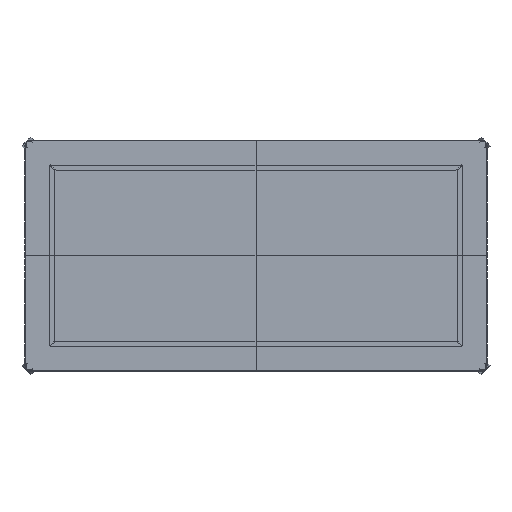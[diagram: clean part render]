
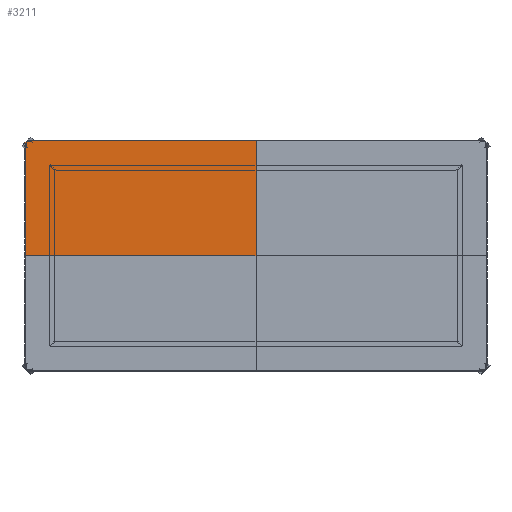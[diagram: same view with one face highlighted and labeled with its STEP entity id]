
A CAD part, top view. The second image highlights one B-rep face of the part: STEP entity #3211.
In plain terms, the highlighted free-form (B-spline) face has degree [1, 1] with [2, 2] control points.
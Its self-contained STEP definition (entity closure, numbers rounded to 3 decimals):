
#91=B_SPLINE_SURFACE_WITH_KNOTS($,1,1,((#36538,#36539),(#36540,#36541)),
.UNSPECIFIED.,.F.,.F.,.F.,(2,2),(2,2),(-749.111,190.189),
(-260.539,209.111),.UNSPECIFIED.);
#3211=ADVANCED_FACE($,(#4375),#91,.T.);
#4375=FACE_OUTER_BOUND($,#5545,.T.);
#5545=EDGE_LOOP($,(#7565,#7566,#7567,#7568,#7569,#7570,#7571,#7572,#7573,
#7574,#7575));
#7565=ORIENTED_EDGE($,*,*,#13369,.T.);
#7566=ORIENTED_EDGE($,*,*,#13370,.T.);
#7567=ORIENTED_EDGE($,*,*,#13371,.T.);
#7568=ORIENTED_EDGE($,*,*,#13372,.T.);
#7569=ORIENTED_EDGE($,*,*,#13373,.T.);
#7570=ORIENTED_EDGE($,*,*,#13374,.T.);
#7571=ORIENTED_EDGE($,*,*,#13375,.T.);
#7572=ORIENTED_EDGE($,*,*,#13376,.T.);
#7573=ORIENTED_EDGE($,*,*,#13377,.T.);
#7574=ORIENTED_EDGE($,*,*,#13378,.T.);
#7575=ORIENTED_EDGE($,*,*,#13379,.T.);
#13369=EDGE_CURVE($,#19173,#19174,#25337,.T.);
#13370=EDGE_CURVE($,#19174,#19175,#25338,.T.);
#13371=EDGE_CURVE($,#19175,#19176,#25339,.T.);
#13372=EDGE_CURVE($,#19176,#19177,#29384,.T.);
#13373=EDGE_CURVE($,#19177,#19178,#25340,.T.);
#13374=EDGE_CURVE($,#19178,#19179,#29385,.T.);
#13375=EDGE_CURVE($,#19179,#19180,#25341,.T.);
#13376=EDGE_CURVE($,#19180,#19181,#25342,.T.);
#13377=EDGE_CURVE($,#19181,#19182,#25343,.T.);
#13378=EDGE_CURVE($,#19182,#19183,#25344,.T.);
#13379=EDGE_CURVE($,#19183,#19173,#25345,.T.);
#19173=VERTEX_POINT($,#36542);
#19174=VERTEX_POINT($,#36543);
#19175=VERTEX_POINT($,#36544);
#19176=VERTEX_POINT($,#36545);
#19177=VERTEX_POINT($,#36546);
#19178=VERTEX_POINT($,#36547);
#19179=VERTEX_POINT($,#36548);
#19180=VERTEX_POINT($,#36549);
#19181=VERTEX_POINT($,#36550);
#19182=VERTEX_POINT($,#36551);
#19183=VERTEX_POINT($,#36552);
#25337=B_SPLINE_CURVE_WITH_KNOTS($,1,(#36510,#36511),.UNSPECIFIED.,.F.,.F.,
(2,2),(-0.929,0.),.UNSPECIFIED.);
#25338=B_SPLINE_CURVE_WITH_KNOTS($,1,(#36512,#36513),.UNSPECIFIED.,.F.,.F.,
(2,2),(-1.,0.),.UNSPECIFIED.);
#25339=B_SPLINE_CURVE_WITH_KNOTS($,1,(#36514,#36515),.UNSPECIFIED.,.F.,.F.,
(2,2),(0.,1.),.UNSPECIFIED.);
#25340=B_SPLINE_CURVE_WITH_KNOTS($,1,(#36523,#36524),.UNSPECIFIED.,.F.,.F.,
(2,2),(0.,1.),.UNSPECIFIED.);
#25341=B_SPLINE_CURVE_WITH_KNOTS($,1,(#36528,#36529),.UNSPECIFIED.,.F.,.F.,
(2,2),(0.,1.),.UNSPECIFIED.);
#25342=B_SPLINE_CURVE_WITH_KNOTS($,1,(#36530,#36531),.UNSPECIFIED.,.F.,.F.,
(2,2),(-1.,0.),.UNSPECIFIED.);
#25343=B_SPLINE_CURVE_WITH_KNOTS($,1,(#36532,#36533),.UNSPECIFIED.,.F.,.F.,
(2,2),(-1.,-0.543),.UNSPECIFIED.);
#25344=B_SPLINE_CURVE_WITH_KNOTS($,1,(#36534,#36535),.UNSPECIFIED.,.F.,.F.,
(2,2),(2.118,930.),.UNSPECIFIED.);
#25345=B_SPLINE_CURVE_WITH_KNOTS($,1,(#36536,#36537),.UNSPECIFIED.,.F.,.F.,
(2,2),(-1395.,-932.118),.UNSPECIFIED.);
#29384=(
BOUNDED_CURVE()
B_SPLINE_CURVE(2,(#36516,#36517,#36518,#36519,#36520,#36521,#36522),.UNSPECIFIED.,
.F.,.F.)
B_SPLINE_CURVE_WITH_KNOTS((3,2,2,3),(0.,0.004,0.015,
0.795),.UNSPECIFIED.)
CURVE()
GEOMETRIC_REPRESENTATION_ITEM()
RATIONAL_B_SPLINE_CURVE((1.,1.,1.,1.,1.,0.925,
1.))
REPRESENTATION_ITEM($)
);
#29385=(
BOUNDED_CURVE()
B_SPLINE_CURVE(2,(#36525,#36526,#36527),.UNSPECIFIED.,.F.,.F.)
B_SPLINE_CURVE_WITH_KNOTS((3,3),(0.,0.795),.UNSPECIFIED.)
CURVE()
GEOMETRIC_REPRESENTATION_ITEM()
RATIONAL_B_SPLINE_CURVE((1.,0.922,1.))
REPRESENTATION_ITEM($)
);
#36510=CARTESIAN_POINT($,(-749.111,40.79,718.874));
#36511=CARTESIAN_POINT($,(-1663.791,40.79,718.874));
#36512=CARTESIAN_POINT($,(-1663.791,40.79,718.874));
#36513=CARTESIAN_POINT($,(-1665.291,40.79,718.874));
#36514=CARTESIAN_POINT($,(-1665.291,40.79,718.874));
#36515=CARTESIAN_POINT($,(-1666.062,42.908,718.874));
#36516=CARTESIAN_POINT($,(-1666.062,42.908,718.874));
#36517=CARTESIAN_POINT($,(-1666.067,42.908,718.874));
#36518=CARTESIAN_POINT($,(-1666.073,42.908,718.874));
#36519=CARTESIAN_POINT($,(-1666.091,42.908,718.874));
#36520=CARTESIAN_POINT($,(-1666.108,42.908,718.874));
#36521=CARTESIAN_POINT($,(-1667.34,42.901,718.874));
#36522=CARTESIAN_POINT($,(-1668.212,42.03,718.874));
#36523=CARTESIAN_POINT($,(-1668.212,42.03,718.874));
#36524=CARTESIAN_POINT($,(-1678.232,32.009,718.874));
#36525=CARTESIAN_POINT($,(-1678.232,32.009,718.874));
#36526=CARTESIAN_POINT($,(-1679.123,31.118,718.874));
#36527=CARTESIAN_POINT($,(-1679.111,29.859,718.874));
#36528=CARTESIAN_POINT($,(-1679.111,29.859,718.874));
#36529=CARTESIAN_POINT($,(-1676.993,29.088,718.874));
#36530=CARTESIAN_POINT($,(-1676.993,29.088,718.874));
#36531=CARTESIAN_POINT($,(-1676.993,27.588,718.874));
#36532=CARTESIAN_POINT($,(-1676.993,27.588,718.874));
#36533=CARTESIAN_POINT($,(-1676.993,-422.092,718.874));
#36534=CARTESIAN_POINT($,(-1676.993,-422.092,718.874));
#36535=CARTESIAN_POINT($,(-749.111,-422.092,718.874));
#36536=CARTESIAN_POINT($,(-749.111,-422.092,718.874));
#36537=CARTESIAN_POINT($,(-749.111,40.79,718.874));
#36538=CARTESIAN_POINT($,(-749.111,47.558,718.874));
#36539=CARTESIAN_POINT($,(-749.111,-422.092,718.874));
#36540=CARTESIAN_POINT($,(-1688.411,47.558,718.874));
#36541=CARTESIAN_POINT($,(-1688.411,-422.092,718.874));
#36542=CARTESIAN_POINT($,(-749.111,40.79,718.874));
#36543=CARTESIAN_POINT($,(-1663.791,40.79,718.874));
#36544=CARTESIAN_POINT($,(-1665.291,40.79,718.874));
#36545=CARTESIAN_POINT($,(-1666.062,42.908,718.874));
#36546=CARTESIAN_POINT($,(-1668.212,42.03,718.874));
#36547=CARTESIAN_POINT($,(-1678.232,32.009,718.874));
#36548=CARTESIAN_POINT($,(-1679.111,29.859,718.874));
#36549=CARTESIAN_POINT($,(-1676.993,29.088,718.874));
#36550=CARTESIAN_POINT($,(-1676.993,27.588,718.874));
#36551=CARTESIAN_POINT($,(-1676.993,-422.092,718.874));
#36552=CARTESIAN_POINT($,(-749.111,-422.092,718.874));
